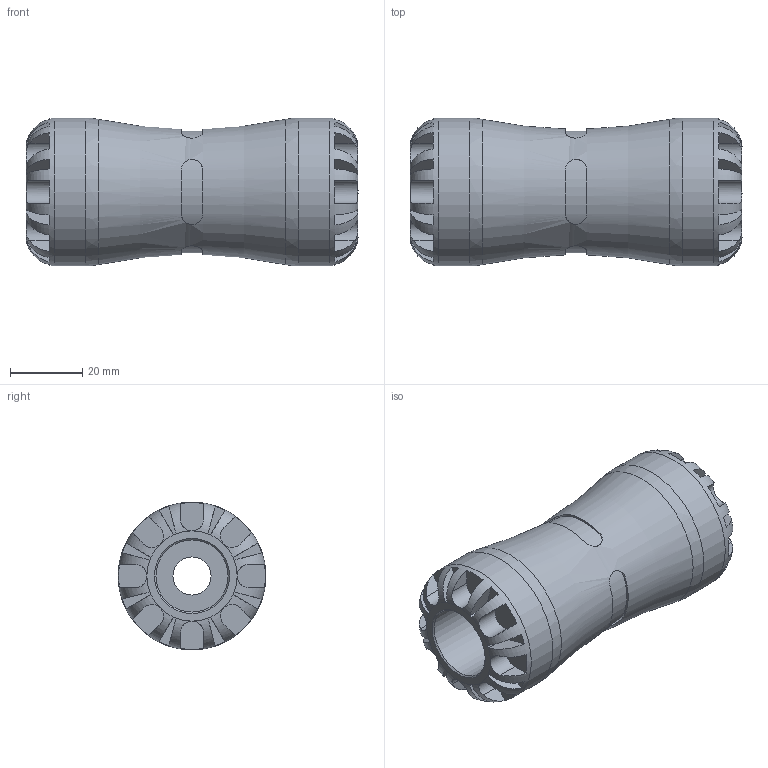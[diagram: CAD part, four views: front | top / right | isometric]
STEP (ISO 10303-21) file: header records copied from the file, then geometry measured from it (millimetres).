
FILE_DESCRIPTION(/* description */ ('PLASSON COUPLER METRIC TO IMPERIAL 20X1/2" SERIES 1'),/* implementation_level */ '2;1');
FILE_NAME(/* name */ 'C:\Dropbox\KIMPROJECTS-Inventor\99-16-3568-Processing\1001M\1001M6020005.ipt.stp',/* time_stamp */ '2017-01-22T10:47:12+02:00',/* author */ ('KIM'),/* organization */ (''),/* preprocessor_version */ 'ST-DEVELOPER v15.6',/* originating_system */ 'Autodesk Inventor 2015',/* authorisation */ '');
FILE_SCHEMA (('AUTOMOTIVE_DESIGN { 1 0 10303 214 3 1 1 }'));
Length unit declared in the file: millimetre
Products named in the file (1): 1001M6020005
Bounding box: 92 x 41 x 41 mm (x, y, z)
Volume: 79865.3 mm3; surface area: 19829.1 mm2
Topology: 1 solids, 1 shells, 164 faces, 419 edges, 262 vertices
Faces by surface type: plane 108, cylinder 49, torus 3, cone 2, bspline 2
Full cylindrical faces by diameter (mm): 10.583 x1, 12.7 x1, 20 x1, 41 x2
Entity records: 6416 total; most frequent: CARTESIAN_POINT 2447, ORIENTED_EDGE 808, DIRECTION 762, EDGE_CURVE 404, AXIS2_PLACEMENT_3D 309, VERTEX_POINT 258, EDGE_LOOP 182, STYLED_ITEM 165
